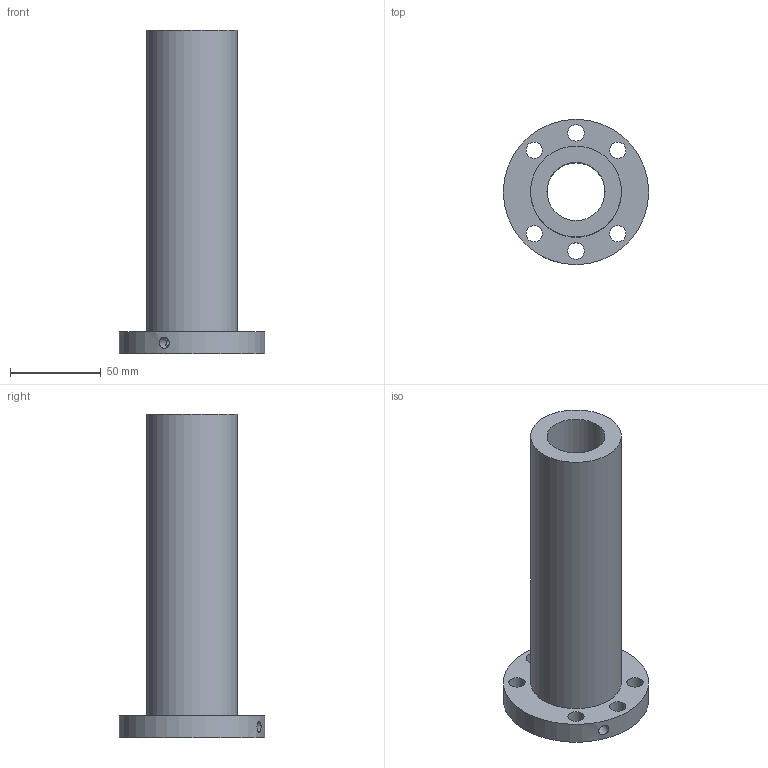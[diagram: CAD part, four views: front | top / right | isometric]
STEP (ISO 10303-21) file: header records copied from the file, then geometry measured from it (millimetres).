
FILE_DESCRIPTION(/* description */ (''),/* implementation_level */ '2;1');
FILE_NAME(/* name */ '32-32K2_3969',/* time_stamp */ '2007-10-15T12:54:00+08:00',/* author */ (''),/* organization */ (''),/* preprocessor_version */ 'ST-DEVELOPER v11',/* originating_system */ 'UGS - NX 5.0',/* authorisation */ '');
FILE_SCHEMA (('CONFIG_CONTROL_DESIGN'));
Length unit declared in the file: millimetre
Products named in the file (1): 32-32K2_3969
Bounding box: 80 x 80 x 178 mm (x, y, z)
Volume: 238095.6 mm3; surface area: 57029 mm2
Topology: 1 solids, 1 shells, 15 faces, 34 edges, 23 vertices
Faces by surface type: cylinder 11, plane 4
Full cylindrical faces by diameter (mm): 4 x1, 6 x1, 9 x6, 32 x1, 50 x1, 80 x1
Entity records: 600 total; most frequent: CARTESIAN_POINT 174, DIRECTION 72, FACE_BOUND 44, EDGE_LOOP 44, ORIENTED_EDGE 44, AXIS2_PLACEMENT_3D 36, VERTEX_POINT 22, EDGE_CURVE 22
